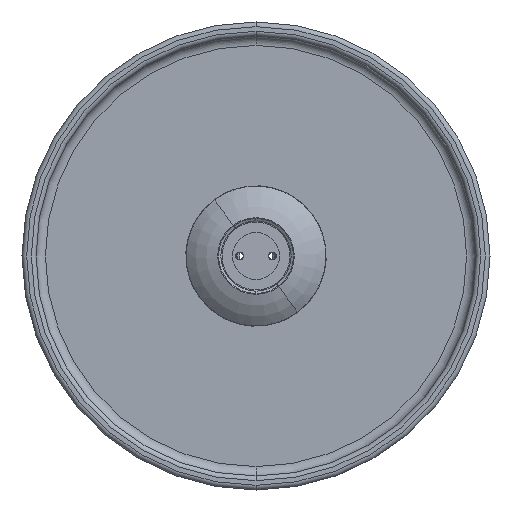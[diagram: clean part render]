
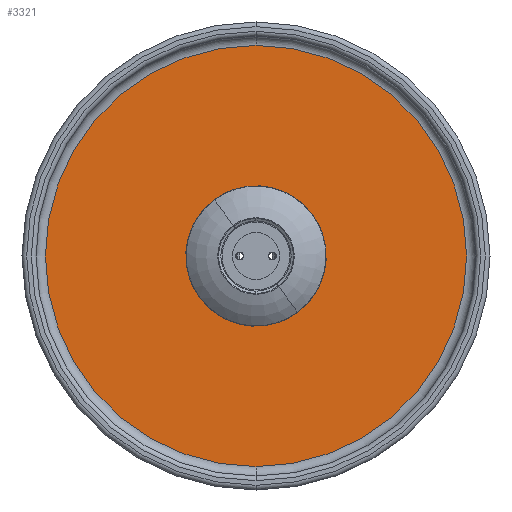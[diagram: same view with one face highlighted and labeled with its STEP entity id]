
A CAD part, front view. The second image highlights one B-rep face of the part: STEP entity #3321.
In plain terms, the highlighted planar face has unit normal (0, -1, 0).
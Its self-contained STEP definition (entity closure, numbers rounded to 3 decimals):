
#5 = AXIS2_PLACEMENT_3D ( 'NONE', #960, #1921, #3158 ) ;
#161 = EDGE_CURVE ( 'NONE', #2989, #2950, #3774, .T. ) ;
#271 = ORIENTED_EDGE ( 'NONE', *, *, #1715, .T. ) ;
#333 = AXIS2_PLACEMENT_3D ( 'NONE', #1334, #1087, #2554 ) ;
#821 = FACE_OUTER_BOUND ( 'NONE', #3945, .T. ) ;
#844 = FACE_BOUND ( 'NONE', #1860, .T. ) ;
#845 = CIRCLE ( 'NONE', #3083, 9.25 ) ;
#910 = DIRECTION ( 'NONE',  ( 0., 1., 0. ) ) ;
#960 = CARTESIAN_POINT ( 'NONE',  ( 0., 259.612, 0. ) ) ;
#1087 = DIRECTION ( 'NONE',  ( 0., -1., 0. ) ) ;
#1146 = DIRECTION ( 'NONE',  ( 0., 1., 0. ) ) ;
#1157 = VERTEX_POINT ( 'NONE', #2536 ) ;
#1206 = DIRECTION ( 'NONE',  ( 0., 0., 1. ) ) ;
#1232 = CARTESIAN_POINT ( 'NONE',  ( 0., 259.612, 0. ) ) ;
#1334 = CARTESIAN_POINT ( 'NONE',  ( 0., 259.612, 0. ) ) ;
#1368 = AXIS2_PLACEMENT_3D ( 'NONE', #2088, #910, #1206 ) ;
#1715 = EDGE_CURVE ( 'NONE', #2950, #2989, #3254, .T. ) ;
#1731 = DIRECTION ( 'NONE',  ( 0., 0., 1. ) ) ;
#1860 = EDGE_LOOP ( 'NONE', ( #3533, #1907 ) ) ;
#1907 = ORIENTED_EDGE ( 'NONE', *, *, #2633, .T. ) ;
#1921 = DIRECTION ( 'NONE',  ( 0., -1., 0. ) ) ;
#1978 = VERTEX_POINT ( 'NONE', #3599 ) ;
#2088 = CARTESIAN_POINT ( 'NONE',  ( -45., 259.612, 0. ) ) ;
#2449 = AXIS2_PLACEMENT_3D ( 'NONE', #3886, #1146, #1731 ) ;
#2457 = DIRECTION ( 'NONE',  ( 0., 1., 0. ) ) ;
#2536 = CARTESIAN_POINT ( 'NONE',  ( 0., 259.612, -9.25 ) ) ;
#2554 = DIRECTION ( 'NONE',  ( 0., 0., -1. ) ) ;
#2633 = EDGE_CURVE ( 'NONE', #1157, #1978, #2880, .T. ) ;
#2804 = ORIENTED_EDGE ( 'NONE', *, *, #161, .T. ) ;
#2871 = EDGE_CURVE ( 'NONE', #1978, #1157, #845, .T. ) ;
#2880 = CIRCLE ( 'NONE', #2449, 9.25 ) ;
#2950 = VERTEX_POINT ( 'NONE', #3033 ) ;
#2989 = VERTEX_POINT ( 'NONE', #3706 ) ;
#3033 = CARTESIAN_POINT ( 'NONE',  ( 0., 259.612, -45. ) ) ;
#3083 = AXIS2_PLACEMENT_3D ( 'NONE', #1232, #2457, #3265 ) ;
#3158 = DIRECTION ( 'NONE',  ( 0., 0., -1. ) ) ;
#3254 = CIRCLE ( 'NONE', #5, 45. ) ;
#3265 = DIRECTION ( 'NONE',  ( 0., 0., 1. ) ) ;
#3321 = ADVANCED_FACE ( 'NONE', ( #844, #821 ), #3347, .F. ) ;
#3347 = PLANE ( 'NONE',  #1368 ) ;
#3533 = ORIENTED_EDGE ( 'NONE', *, *, #2871, .T. ) ;
#3599 = CARTESIAN_POINT ( 'NONE',  ( 0., 259.612, 9.25 ) ) ;
#3706 = CARTESIAN_POINT ( 'NONE',  ( 0., 259.612, 45. ) ) ;
#3774 = CIRCLE ( 'NONE', #333, 45. ) ;
#3886 = CARTESIAN_POINT ( 'NONE',  ( 0., 259.612, 0. ) ) ;
#3945 = EDGE_LOOP ( 'NONE', ( #271, #2804 ) ) ;
